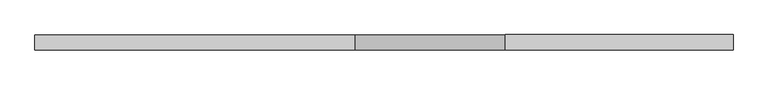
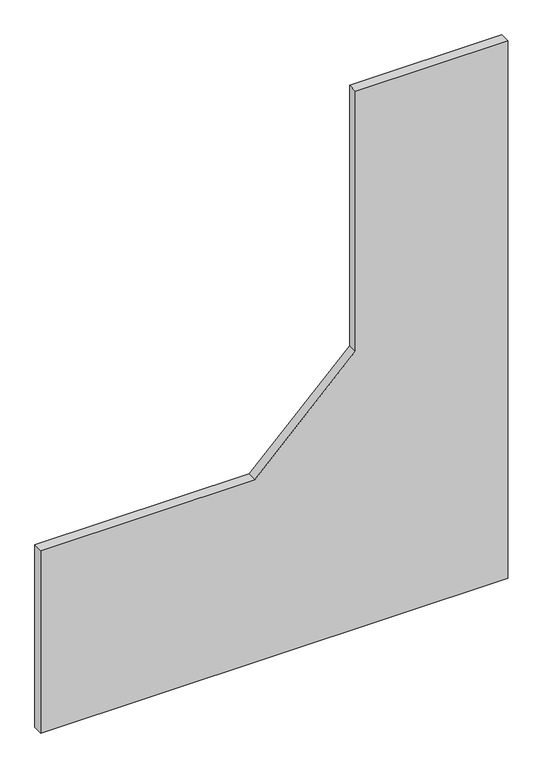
"""IFC4 building model written with IfcOpenShell, lengths in millimetres: proxy geometry, FOUNDATION^WORKSURFACES_LIFT TOP-69x98.5 ANGLED."""

from ifc_helpers import new_model, si_unit, frame, origin, place, context, project, spatial, polyline, outline, extrude, source, transform, mapped, element, save


def generic_models_038635d6(model_context):
    return source(origin(), model_context, "Body", "SweptSolid", [
        extrude(outline(polyline([(723.9, 803.9292429), (723.9, 0.0), (0.0, 0.0), (0.0, 1752.6), (2133.6, 1752.6), (2133.6, 1181.1), (1101.0707571, 1181.1), (723.9, 803.9292429)])), frame((0.0, 0.0, 0.0), z_axis=(0.0, 1.0, 0.0), x_axis=(0.0, 0.0, 1.0)), (0.0, 0.0, 1.0), 38.1),
    ])


if __name__ == "__main__":
    model = new_model("IFC4")
    model_context = context("Model", 3, world=origin())
    ifc_project = project(units=[si_unit("LENGTHUNIT", "METRE", prefix="MILLI")], contexts=[model_context])
    site = spatial("IfcSite", under=ifc_project)
    building = spatial("IfcBuilding", under=site)
    placement = place(None, origin())
    generic_models_shape = generic_models_038635d6(model_context)
    element("IfcBuildingElementProxy", 1, Name="FOUNDATION^WORKSURFACES_LIFT TOP-69x98.5 ANGLED", ObjectType="FOUNDATION^WORKSURFACES_LIFT TOP-69x98.5 ANGLED", at=placement, inside=building, context=model_context, shape_type="MappedRepresentation", body=[
        mapped(generic_models_shape, transform((0.0, 0.0, 0.0), x_axis=(1.0, 0.0, 0.0), y_axis=(0.0, 1.0, 0.0), z_axis=(0.0, 0.0, 1.0))),
    ])
    save(model, "model.ifc")
